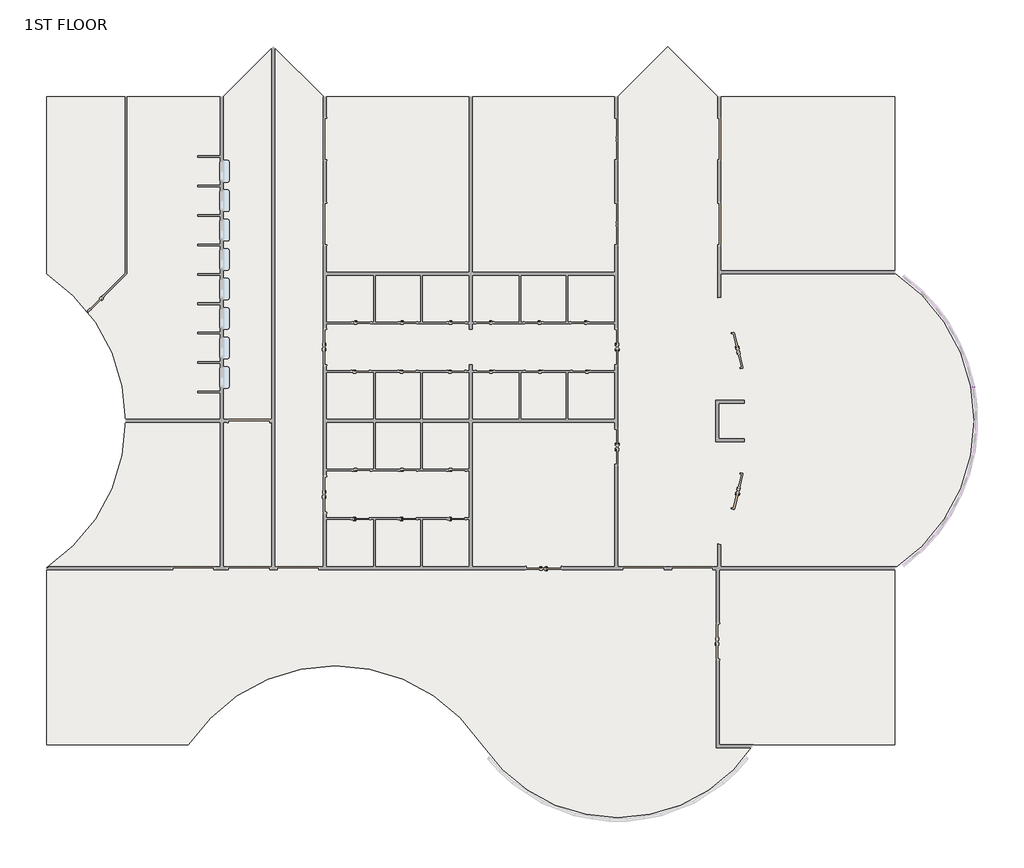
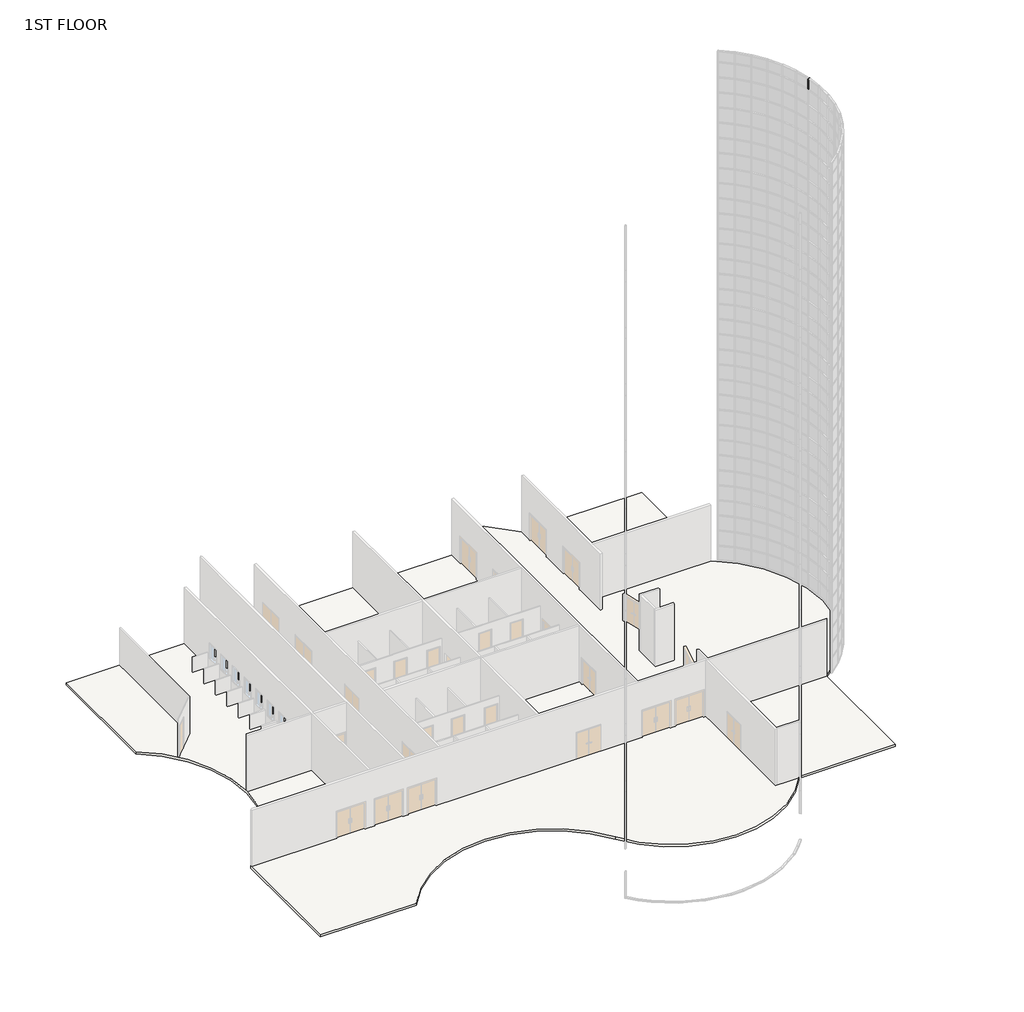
# One storey, part 17 of 17: 1 member, 1 slab.
"""IFC4 building model written with IfcOpenShell, lengths in millimetres."""

from ifc_helpers import new_model, si_unit, point, frame, frame_2d, origin, place, context, project, spatial, polyline, circle_curve, trimmed, segment, composite_curve, outline, extrude, transform, mapped, element, save
from components import member_410c6227

model = new_model("IFC4")

# Units and contexts
model_context = context("Model", 3, world=origin())
ifc_project = project(units=[si_unit("LENGTHUNIT", "METRE", prefix="MILLI")], contexts=[model_context])

# Site, building, storey
site = spatial("IfcSite", under=ifc_project)
building = spatial("IfcBuilding", under=site)
storey = spatial("IfcBuildingStorey", under=building, Name="1ST FLOOR", Elevation=4572.0)

# Member
placement = place(None, origin())
member_shape = member_410c6227(model_context)
element("IfcMember", 1, ObjectType="Rectangular Mullion : 2.5\" x 5\" rectangular", at=placement, inside=storey, context=model_context, shape_type="MappedRepresentation", body=[
    mapped(member_shape, transform((48110.9783326, 18652.5182274, 44805.6), x_axis=(0.18634649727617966, -0.9824840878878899, 0.0), y_axis=(-0.9824840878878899, -0.18634649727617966, 0.0), z_axis=(0.0, 0.0, -1.0))),
])

# Slab
element("IfcSlab", 2, ObjectType="ARCHITECTURAL FINISH FLOOR", at=placement, inside=storey, context=model_context, shape_type="SweptSolid", body=[
    extrude(outline(composite_curve([segment(polyline([(9294.3144878, 33696.275), (11885.8887629, 36287.8492751), (14477.463038, 33696.275), (29706.9420135, 33696.275), (32298.5162886, 36287.8492751), (34890.0905637, 33696.275), (44041.5300515, 33696.275), (44041.5300515, 24546.3877275)]), True, "CONTINUOUS"), segment(trimmed(circle_curve(frame_2d((38974.293871, 16919.575)), 9156.7), [point((44041.5300515, 24546.3877275))], [point((44041.5300515, 9292.7622725))], False, "CARTESIAN"), True, "CONTINUOUS"), segment(polyline([(44041.5300515, 9292.7622725), (44041.5300515, 142.875), (36720.4425102, 142.875)]), True, "CONTINUOUS"), segment(trimmed(circle_curve(frame_2d((29712.2025257, 4799.7966199)), 8414.4130309), [point((36720.4425102, 142.875))], [point((22700.1916667, 148.5548109))], False, "CARTESIAN"), True, "CONTINUOUS"), segment(trimmed(circle_curve(frame_2d((15090.775, -4898.9611805)), 9131.3), [point((22700.1916667, 148.5548109))], [point((7477.593824, 142.875))], True, "CARTESIAN"), True, "CONTINUOUS"), segment(polyline([(7477.593824, 142.875), (142.875, 142.875), (142.875, 9306.393824)]), True, "CONTINUOUS"), segment(trimmed(circle_curve(frame_2d((-4898.9611805, 16919.575)), 9131.3), [point((142.875, 9306.393824))], [point((142.875, 24532.756176))], True, "CARTESIAN"), True, "CONTINUOUS"), segment(polyline([(142.875, 24532.756176), (142.875, 33696.275), (9294.3144878, 33696.275)]), True, "CONTINUOUS")], self_intersect=False)), frame((0.0, 0.0, 4419.6), z_axis=(0.0, 0.0, 1.0), x_axis=(1.0, 0.0, 0.0)), (0.0, 0.0, 1.0), 171.45),
])

save(model, "model.ifc")
